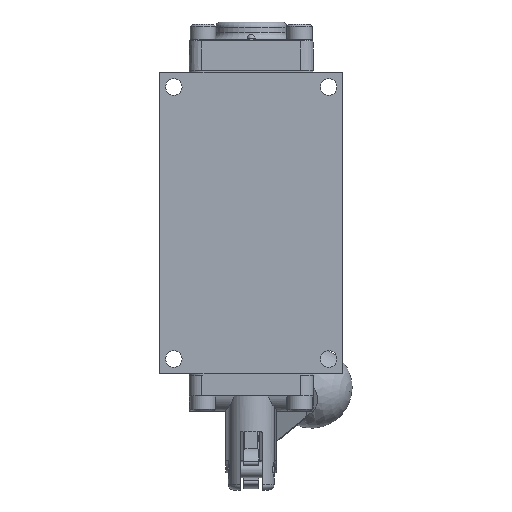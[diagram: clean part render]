
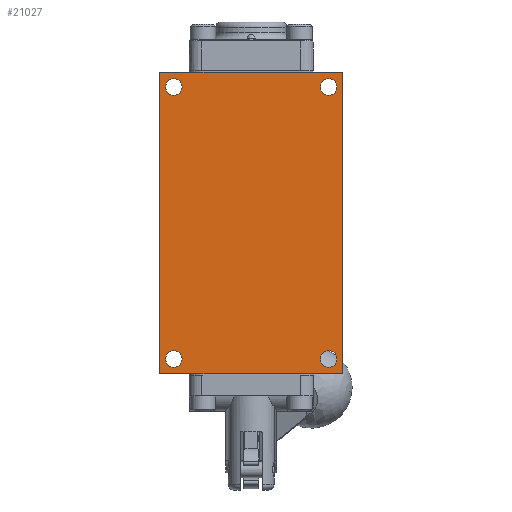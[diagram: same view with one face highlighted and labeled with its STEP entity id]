
A CAD part, front view. The second image highlights one B-rep face of the part: STEP entity #21027.
In plain terms, the highlighted planar face has unit normal (0, -1, 0).
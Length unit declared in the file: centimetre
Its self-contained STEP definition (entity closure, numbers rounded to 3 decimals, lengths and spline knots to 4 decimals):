
#1329=FACE_BOUND('',#3072,.T.);
#1330=FACE_BOUND('',#3073,.T.);
#1331=FACE_BOUND('',#3074,.T.);
#1332=FACE_BOUND('',#3075,.T.);
#1789=FACE_OUTER_BOUND('',#3071,.T.);
#3071=EDGE_LOOP('',(#14854,#14855,#14856,#14857));
#3072=EDGE_LOOP('',(#14858));
#3073=EDGE_LOOP('',(#14859));
#3074=EDGE_LOOP('',(#14860));
#3075=EDGE_LOOP('',(#14861));
#4216=CIRCLE('',#22384,0.2578);
#4217=CIRCLE('',#22386,0.2578);
#4218=CIRCLE('',#22388,0.2578);
#4219=CIRCLE('',#22390,0.2578);
#5059=LINE('',#30116,#6588);
#5069=LINE('',#30152,#6598);
#5287=LINE('',#31107,#6816);
#5529=LINE('',#32531,#7058);
#6588=VECTOR('',#24333,1.);
#6598=VECTOR('',#24361,1.);
#6816=VECTOR('',#24749,1.);
#7058=VECTOR('',#25141,1.);
#8144=VERTEX_POINT('',#30113);
#8145=VERTEX_POINT('',#30115);
#8161=VERTEX_POINT('',#30149);
#8162=VERTEX_POINT('',#30151);
#8687=VERTEX_POINT('',#33335);
#8688=VERTEX_POINT('',#33339);
#8689=VERTEX_POINT('',#33343);
#8690=VERTEX_POINT('',#33347);
#10110=EDGE_CURVE('',#8144,#8145,#5059,.T.);
#10127=EDGE_CURVE('',#8161,#8162,#5069,.T.);
#10408=EDGE_CURVE('',#8162,#8144,#5287,.T.);
#10744=EDGE_CURVE('',#8145,#8161,#5529,.T.);
#10916=EDGE_CURVE('',#8687,#8687,#4216,.T.);
#10918=EDGE_CURVE('',#8688,#8688,#4217,.T.);
#10920=EDGE_CURVE('',#8689,#8689,#4218,.T.);
#10922=EDGE_CURVE('',#8690,#8690,#4219,.T.);
#14854=ORIENTED_EDGE('',*,*,#10408,.F.);
#14855=ORIENTED_EDGE('',*,*,#10127,.F.);
#14856=ORIENTED_EDGE('',*,*,#10744,.F.);
#14857=ORIENTED_EDGE('',*,*,#10110,.F.);
#14858=ORIENTED_EDGE('',*,*,#10916,.T.);
#14859=ORIENTED_EDGE('',*,*,#10918,.T.);
#14860=ORIENTED_EDGE('',*,*,#10920,.T.);
#14861=ORIENTED_EDGE('',*,*,#10922,.T.);
#19094=PLANE('',#22416);
#21027=ADVANCED_FACE('',(#1789,#1329,#1330,#1331,#1332),#19094,.F.);
#22384=AXIS2_PLACEMENT_3D('',#33337,#25505,#25506);
#22386=AXIS2_PLACEMENT_3D('',#33341,#25510,#25511);
#22388=AXIS2_PLACEMENT_3D('',#33345,#25515,#25516);
#22390=AXIS2_PLACEMENT_3D('',#33349,#25520,#25521);
#22416=AXIS2_PLACEMENT_3D('',#33400,#25587,#25588);
#24333=DIRECTION('',(1.,0.,0.));
#24361=DIRECTION('',(-1.,0.,0.));
#24749=DIRECTION('',(0.,0.,1.));
#25141=DIRECTION('',(0.,0.,-1.));
#25505=DIRECTION('center_axis',(0.,1.,0.));
#25506=DIRECTION('ref_axis',(-1.,0.,0.));
#25510=DIRECTION('center_axis',(0.,1.,0.));
#25511=DIRECTION('ref_axis',(-1.,0.,0.));
#25515=DIRECTION('center_axis',(0.,1.,0.));
#25516=DIRECTION('ref_axis',(-1.,0.,0.));
#25520=DIRECTION('center_axis',(0.,1.,0.));
#25521=DIRECTION('ref_axis',(-1.,0.,0.));
#25587=DIRECTION('center_axis',(0.,1.,0.));
#25588=DIRECTION('ref_axis',(0.,0.,1.));
#30113=CARTESIAN_POINT('',(-2.8575,-1.6358,4.7104));
#30115=CARTESIAN_POINT('',(2.8575,-1.6358,4.7104));
#30116=CARTESIAN_POINT('',(-2.8575,-1.6358,4.7104));
#30149=CARTESIAN_POINT('',(2.8575,-1.6358,-4.7104));
#30151=CARTESIAN_POINT('',(-2.8575,-1.6358,-4.7104));
#30152=CARTESIAN_POINT('',(2.8575,-1.6358,-4.7104));
#31107=CARTESIAN_POINT('',(-2.8575,-1.6358,-4.7104));
#32531=CARTESIAN_POINT('',(2.8575,-1.6358,4.7104));
#33335=CARTESIAN_POINT('',(-2.1628,-1.6358,-4.2469));
#33337=CARTESIAN_POINT('Origin',(-2.4206,-1.6358,-4.2469));
#33339=CARTESIAN_POINT('',(-2.1628,-1.6358,4.2469));
#33341=CARTESIAN_POINT('Origin',(-2.4206,-1.6358,4.2469));
#33343=CARTESIAN_POINT('',(2.6784,-1.6358,-4.2469));
#33345=CARTESIAN_POINT('Origin',(2.4206,-1.6358,-4.2469));
#33347=CARTESIAN_POINT('',(2.6784,-1.6358,4.2469));
#33349=CARTESIAN_POINT('Origin',(2.4206,-1.6358,4.2469));
#33400=CARTESIAN_POINT('Origin',(0.,-1.6358,0.));
